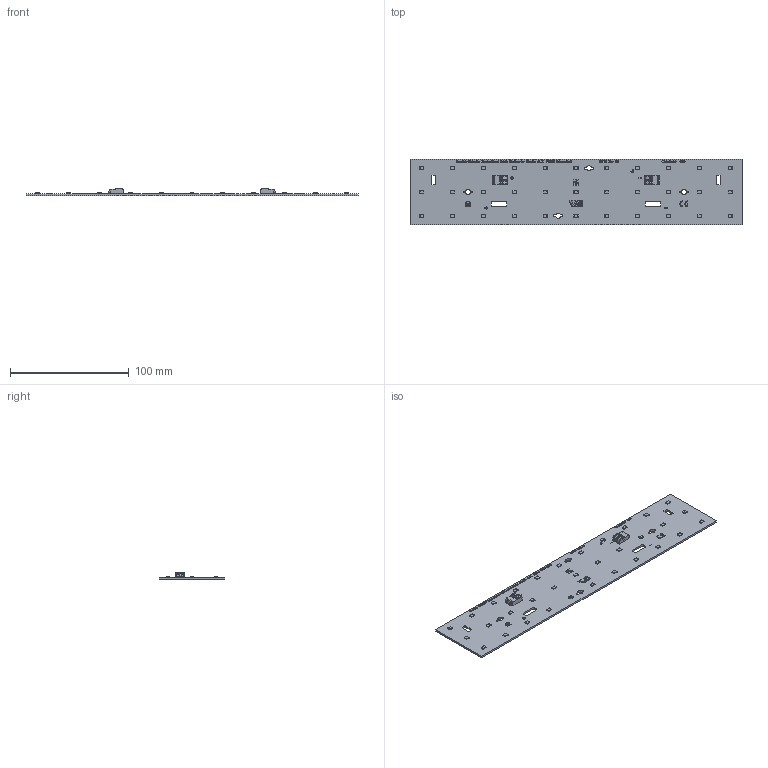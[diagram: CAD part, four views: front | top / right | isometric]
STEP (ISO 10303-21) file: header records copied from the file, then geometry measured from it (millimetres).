
FILE_DESCRIPTION(('Creo Elements/Direct Modeling STEP Export'),'2;1');
FILE_NAME('3D-Model_MLC SC W5.5_280_33_yzz G2_TC.stp','2025-05-12T13:09:59',(''),(''),'PTC Creo Elements/Direct Modeling STEP processor for AP214 (Solid Model)','PTC Creo Elements/Direct Modeling 19.0E 27-Jun-2016 (C) Parametric Technology GmbH','');
FILE_SCHEMA(('AUTOMOTIVE_DESIGN { 1 0 10303 214 1 1 1 1 }'));
Length unit declared in the file: millimetre
Products named in the file (128): PRINT.10; PRINT.12; PRINT.13; PRINT.5; PRINT.7; PRINT.8; PRINT.11; PRINT.6; PRINT.15; PRINT.14; PRINT.9; PRINT.105; PRINT.110; PRINT.106; PRINT.108; PRINT.109; PRINT.103; PRINT.102; PRINT.107; PRINT.104; PRINT.55; PRINT.49; PRINT.53; PRINT.47; PRINT.52; PRINT.48; PRINT.50; PRINT.51; PRINT.56; PRINT.57; PRINT.54; PRINT.18; PRINT.17; PRINT.25; PRINT.26; PRINT.23; PRINT.20; PRINT.16; PRINT.19; PRINT.24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
Assembly tree (146 placements, depth 2):
  Print-Service
    PRINT.76
    PRINT.74
    PRINT.73
    PRINT.78
    PRINT.72
    PRINT.77
    PRINT.88
    PRINT.81
    PRINT.87
    PRINT.75
    PRINT.70
    PRINT.71
    PRINT.69
    PRINT.79
    PRINT.82
    PRINT.89
    PRINT.86
    PRINT.85
    PRINT.80
    PRINT.83
    PRINT.90
    PRINT.84
    PRINT.66
    PRINT.58
    PRINT.65
    PRINT.63
    PRINT.67
    PRINT.60
    PRINT.68
    PRINT.62
    PRINT.64
    PRINT.59
    PRINT.61
    PRINT.29
    PRINT.31
    PRINT.32
    PRINT.34
    PRINT.27
    PRINT.37
    PRINT.35
    PRINT.36
    PRINT.33
    PRINT.28
    PRINT.30
    PRINT.93
    PRINT.96
    PRINT.92
    PRINT.91
    PRINT.98
    PRINT.97
    PRINT.99
    PRINT.94
    PRINT.95
    PRINT.100
    PRINT.101
    PRINT.45
    PRINT.46
    PRINT.39
    PRINT.38
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Bounding box: 280 x 55 x 6.1 mm (x, y, z)
Volume: 25040.3 mm3; surface area: 33986.1 mm2
Topology: 147 solids, 147 shells, 5766 faces, 15712 edges, 10351 vertices
Faces by surface type: plane 4472, cylinder 1290, sphere 4
Entity records: 150737 total; most frequent: CARTESIAN_POINT 20897, ORIENTED_EDGE 20338, DIRECTION 19711, EDGE_CURVE 10169, VECTOR 8259, LINE 8259, VERTEX_POINT 6740, AXIS2_PLACEMENT_3D 5726
